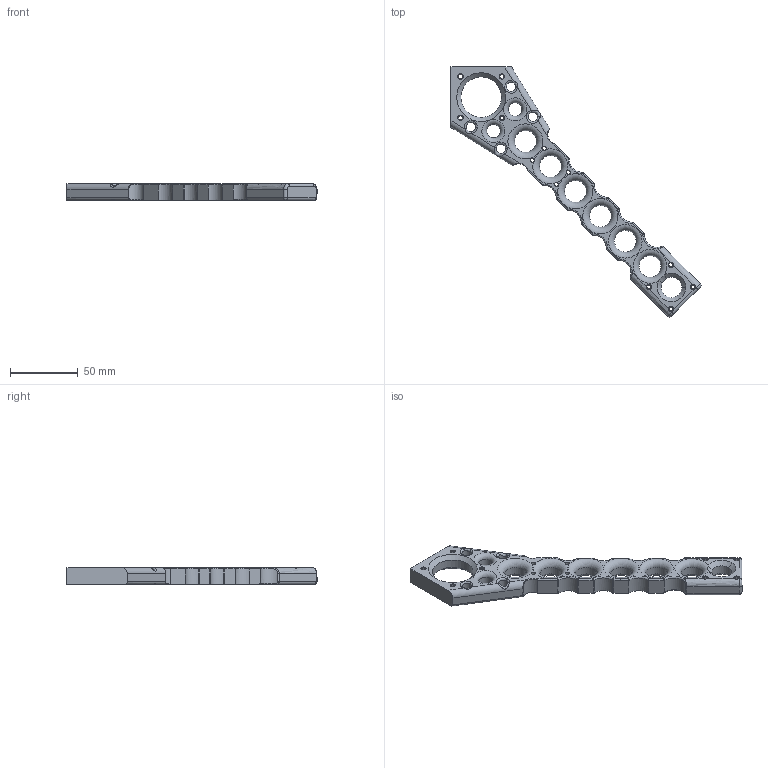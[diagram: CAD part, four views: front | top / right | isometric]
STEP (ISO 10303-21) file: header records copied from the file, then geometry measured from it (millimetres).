
FILE_DESCRIPTION(('FreeCAD Model'),'2;1');
FILE_NAME('Open CASCADE Shape Model','2026-08-19T21:38:35',('Author'),( ''),'Open CASCADE STEP processor 7.8','FreeCAD','Unknown');
FILE_SCHEMA(('AUTOMOTIVE_DESIGN { 1 0 10303 214 1 1 1 1 }'));
Length unit declared in the file: millimetre
Products named in the file (1): Body
Bounding box: 184.09 x 184.09 x 12.5 mm (x, y, z)
Volume: 65817.2 mm3; surface area: 25040.9 mm2
Topology: 1 solids, 1 shells, 206 faces, 546 edges, 325 vertices
Faces by surface type: cylinder 64, bspline 61, torus 43, cone 19, plane 17, extrusion 2
Full cylindrical faces by diameter (mm): 2.95 x12, 7 x4, 10 x2, 15 x1, 16 x6, 30 x1
Entity records: 11550 total; most frequent: CARTESIAN_POINT 6915, ORIENTED_EDGE 1088, DIRECTION 872, EDGE_CURVE 544, AXIS2_PLACEMENT_3D 367, VERTEX_POINT 325, FACE_BOUND 243, EDGE_LOOP 243
